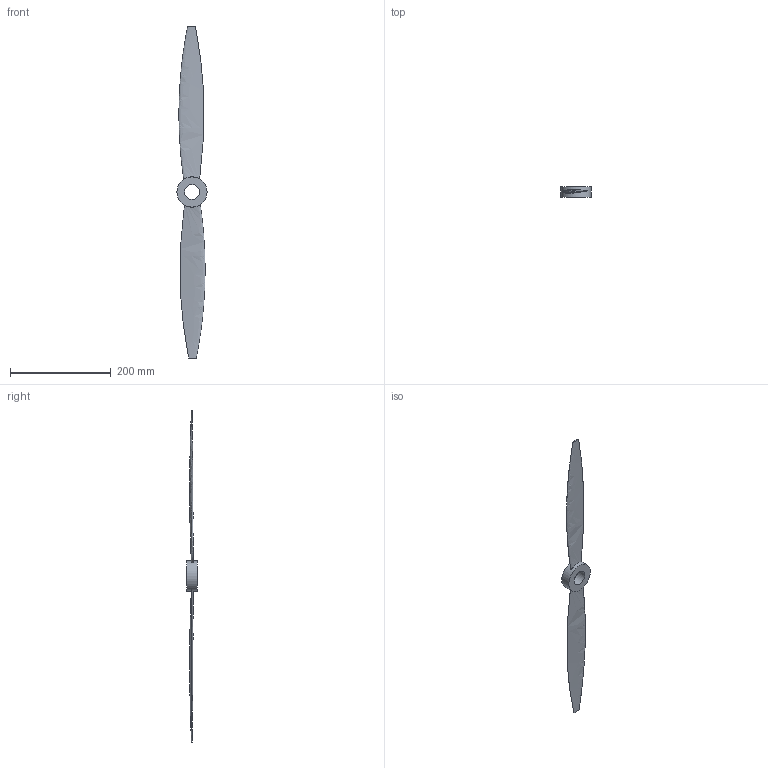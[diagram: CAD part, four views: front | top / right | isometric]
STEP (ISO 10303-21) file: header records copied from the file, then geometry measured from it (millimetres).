
FILE_DESCRIPTION(/* description */ (''),/* implementation_level */ '2;1');
FILE_NAME(/* name */ 'Blade of VTOL.step',/* time_stamp */ '2026-10-11T15:46:14+05:30',/* author */ (''),/* organization */ (''),/* preprocessor_version */ 'ST-DEVELOPER v20.2',/* originating_system */ 'Autodesk Translation Framework v15.15.0.0',/* authorisation */ '');
FILE_SCHEMA (('AUTOMOTIVE_DESIGN { 1 0 10303 214 3 1 1 }'));
Length unit declared in the file: centimetre
Products named in the file (1): 2026-10-11-11-43-47-467
Bounding box: 60 x 20 x 660.4 mm (x, y, z)
Volume: 166044.4 mm3; surface area: 69989.9 mm2
Topology: 2 solids, 2 shells, 14 faces, 22 edges, 14 vertices
Faces by surface type: plane 6, cylinder 4, bspline 4
Full cylindrical faces by diameter (mm): 30 x2, 60 x2
Entity records: 1394 total; most frequent: CARTESIAN_POINT 1117, ORIENTED_EDGE 44, DIRECTION 44, EDGE_CURVE 22, EDGE_LOOP 20, AXIS2_PLACEMENT_3D 19, FACE_OUTER_BOUND 14, VERTEX_POINT 14
